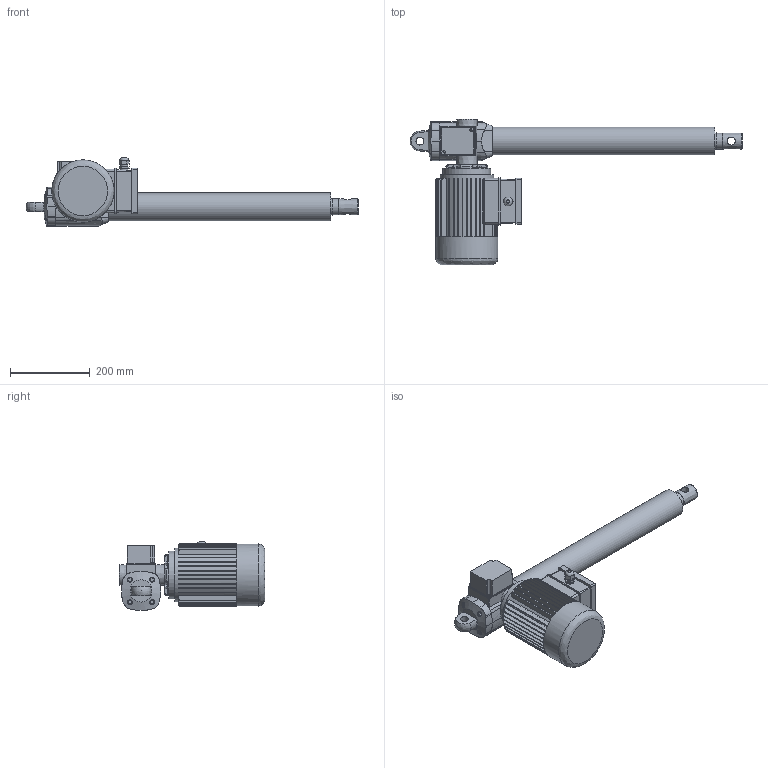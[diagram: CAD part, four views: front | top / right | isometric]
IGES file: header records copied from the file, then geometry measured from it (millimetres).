
Start section: Data from Parasolid IGES Translator 28.1.247, Copyright(c) 2006 Siemens PLM Software. All Rights Reserved.
Global section: file name: ALI5-F_0500_0_M04_CA-400_50-T-80-2-1.1_IP55_M0_1_2FC2_P1_A1.igs; native system: By Siemens PLM Incorporated; preprocessor: XPlus GENERIC/IGES 28.1.247; author: Noname; organization: Noname; date: 20260708.152321; units: millimetre
Bounding box: 834 x 366 x 173 mm (x, y, z)
Surface area: 727594.9 mm2 (no closed solid volume)
Topology: 0 solids, 0 shells, 510 faces, 2779 edges, 2737 vertices
Faces by surface type: extrusion 339, revolution 171
